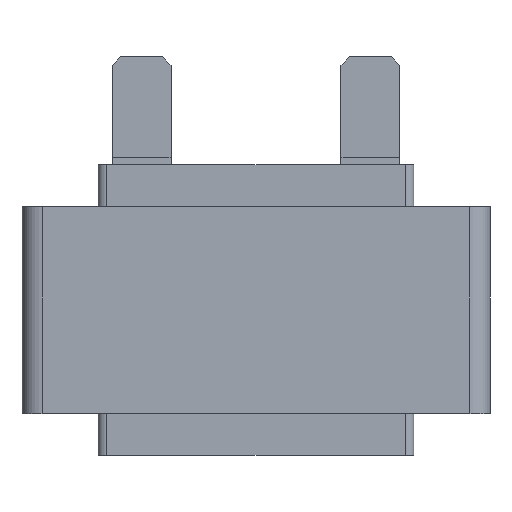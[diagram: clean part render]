
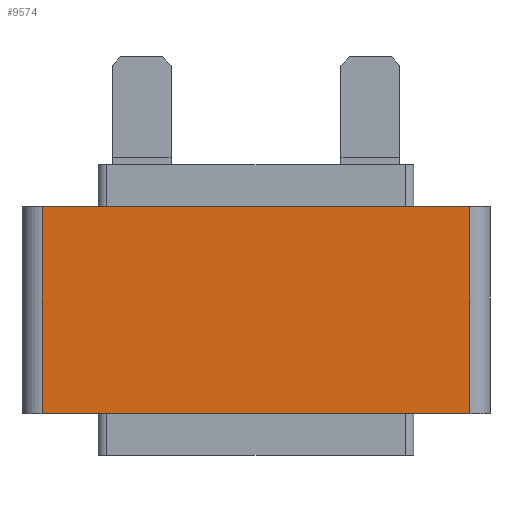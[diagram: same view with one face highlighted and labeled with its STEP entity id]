
A CAD part, front view. The second image highlights one B-rep face of the part: STEP entity #9574.
In plain terms, the highlighted planar face has unit normal (0, -1, 0).
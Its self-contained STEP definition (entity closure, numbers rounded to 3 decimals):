
#600 = DIRECTION ( 'NONE',  ( 1., 0., 0. ) ) ;
#1124 = LINE ( 'NONE', #17184, #3106 ) ;
#1210 = DIRECTION ( 'NONE',  ( 1., 0., 0. ) ) ;
#1571 = VECTOR ( 'NONE', #1210, 1000. ) ;
#1938 = ORIENTED_EDGE ( 'NONE', *, *, #4284, .F. ) ;
#2321 = EDGE_CURVE ( 'NONE', #15802, #13300, #1124, .T. ) ;
#3106 = VECTOR ( 'NONE', #4691, 1000. ) ;
#3438 = AXIS2_PLACEMENT_3D ( 'NONE', #19916, #5300, #5380 ) ;
#3544 = VECTOR ( 'NONE', #600, 1000. ) ;
#4284 = EDGE_CURVE ( 'NONE', #15802, #22630, #7272, .T. ) ;
#4430 = CARTESIAN_POINT ( 'NONE',  ( -25.43, -9.891, -12.3 ) ) ;
#4677 = ORIENTED_EDGE ( 'NONE', *, *, #2321, .T. ) ;
#4691 = DIRECTION ( 'NONE',  ( 0., 0., -1. ) ) ;
#5300 = DIRECTION ( 'NONE',  ( 0., 1., 0. ) ) ;
#5380 = DIRECTION ( 'NONE',  ( 0., 0., 1. ) ) ;
#6890 = LINE ( 'NONE', #6957, #20010 ) ;
#6957 = CARTESIAN_POINT ( 'NONE',  ( 25.43, -9.891, 12.3 ) ) ;
#7272 = LINE ( 'NONE', #21245, #1571 ) ;
#8279 = CARTESIAN_POINT ( 'NONE',  ( -25.43, -9.891, -12.3 ) ) ;
#8947 = LINE ( 'NONE', #4430, #3544 ) ;
#9454 = ORIENTED_EDGE ( 'NONE', *, *, #16529, .F. ) ;
#9574 = ADVANCED_FACE ( 'NONE', ( #15787 ), #14624, .F. ) ;
#10676 = ORIENTED_EDGE ( 'NONE', *, *, #20654, .T. ) ;
#13300 = VERTEX_POINT ( 'NONE', #8279 ) ;
#13674 = CARTESIAN_POINT ( 'NONE',  ( -25.43, -9.891, 12.3 ) ) ;
#13865 = EDGE_LOOP ( 'NONE', ( #10676, #9454, #1938, #4677 ) ) ;
#14624 = PLANE ( 'NONE',  #3438 ) ;
#15787 = FACE_OUTER_BOUND ( 'NONE', #13865, .T. ) ;
#15802 = VERTEX_POINT ( 'NONE', #13674 ) ;
#15941 = VERTEX_POINT ( 'NONE', #15985 ) ;
#15985 = CARTESIAN_POINT ( 'NONE',  ( 25.43, -9.891, -12.3 ) ) ;
#16529 = EDGE_CURVE ( 'NONE', #22630, #15941, #6890, .T. ) ;
#17184 = CARTESIAN_POINT ( 'NONE',  ( -25.43, -9.891, 12.3 ) ) ;
#19703 = DIRECTION ( 'NONE',  ( 0., 0., -1. ) ) ;
#19916 = CARTESIAN_POINT ( 'NONE',  ( -25.43, -9.891, 12.3 ) ) ;
#20010 = VECTOR ( 'NONE', #19703, 1000. ) ;
#20654 = EDGE_CURVE ( 'NONE', #13300, #15941, #8947, .T. ) ;
#21245 = CARTESIAN_POINT ( 'NONE',  ( -25.43, -9.891, 12.3 ) ) ;
#22092 = CARTESIAN_POINT ( 'NONE',  ( 25.43, -9.891, 12.3 ) ) ;
#22630 = VERTEX_POINT ( 'NONE', #22092 ) ;
